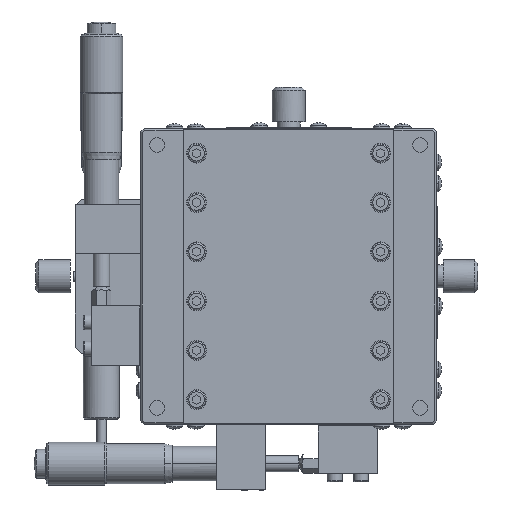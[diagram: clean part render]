
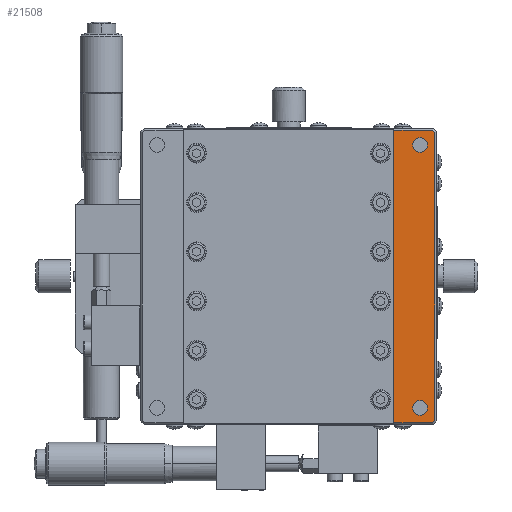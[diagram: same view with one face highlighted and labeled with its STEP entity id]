
A CAD part, front view. The second image highlights one B-rep face of the part: STEP entity #21508.
In plain terms, the highlighted planar face has unit normal (0, 1, 0).
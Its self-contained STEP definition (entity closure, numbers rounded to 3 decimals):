
#36 = CARTESIAN_POINT ( 'NONE',  ( 56.038, -16.673, 183.136 ) ) ;
#52 = EDGE_CURVE ( 'NONE', #35223, #37254, #32704, .T. ) ;
#1307 = LINE ( 'NONE', #28956, #22732 ) ;
#2003 = ORIENTED_EDGE ( 'NONE', *, *, #38731, .T. ) ;
#2301 = CARTESIAN_POINT ( 'NONE',  ( 44.245, -16.673, 94.136 ) ) ;
#3210 = ORIENTED_EDGE ( 'NONE', *, *, #15111, .F. ) ;
#3510 = LINE ( 'NONE', #17649, #36101 ) ;
#4070 = DIRECTION ( 'NONE',  ( 0., 0., 1. ) ) ;
#4244 = LINE ( 'NONE', #18417, #18880 ) ;
#4556 = DIRECTION ( 'NONE',  ( 0.707, 0., -0.707 ) ) ;
#4748 = VECTOR ( 'NONE', #4556, 1000. ) ;
#5382 = AXIS2_PLACEMENT_3D ( 'NONE', #2301, #21876, #31385 ) ;
#5523 = CARTESIAN_POINT ( 'NONE',  ( 56.745, -16.673, 94.136 ) ) ;
#6578 = ORIENTED_EDGE ( 'NONE', *, *, #12110, .T. ) ;
#7286 = FACE_BOUND ( 'NONE', #21446, .T. ) ;
#8035 = DIRECTION ( 'NONE',  ( 0., -1., 0. ) ) ;
#8647 = LINE ( 'NONE', #13529, #4748 ) ;
#9438 = EDGE_CURVE ( 'NONE', #31579, #16203, #8647, .T. ) ;
#9873 = EDGE_CURVE ( 'NONE', #12613, #31579, #4244, .T. ) ;
#11593 = AXIS2_PLACEMENT_3D ( 'NONE', #19646, #25924, #29047 ) ;
#12110 = EDGE_CURVE ( 'NONE', #23027, #31789, #14827, .T. ) ;
#12601 = EDGE_CURVE ( 'NONE', #16203, #20871, #31734, .T. ) ;
#12613 = VERTEX_POINT ( 'NONE', #15186 ) ;
#13007 = EDGE_LOOP ( 'NONE', ( #14101, #29121 ) ) ;
#13529 = CARTESIAN_POINT ( 'NONE',  ( 56.038, -16.673, 183.136 ) ) ;
#14101 = ORIENTED_EDGE ( 'NONE', *, *, #17987, .T. ) ;
#14172 = ORIENTED_EDGE ( 'NONE', *, *, #9438, .T. ) ;
#14827 = CIRCLE ( 'NONE', #32323, 2.25 ) ;
#15111 = EDGE_CURVE ( 'NONE', #30302, #20871, #1307, .T. ) ;
#15156 = CARTESIAN_POINT ( 'NONE',  ( 52.245, -16.673, 100.886 ) ) ;
#15177 = CARTESIAN_POINT ( 'NONE',  ( 44.245, -16.673, 94.136 ) ) ;
#15186 = CARTESIAN_POINT ( 'NONE',  ( 44.245, -16.673, 183.136 ) ) ;
#15540 = EDGE_CURVE ( 'NONE', #22255, #30302, #30499, .T. ) ;
#15644 = CARTESIAN_POINT ( 'NONE',  ( 52.245, -16.673, 176.386 ) ) ;
#16203 = VERTEX_POINT ( 'NONE', #36272 ) ;
#16687 = ORIENTED_EDGE ( 'NONE', *, *, #12601, .T. ) ;
#17649 = CARTESIAN_POINT ( 'NONE',  ( 44.245, -16.673, 183.436 ) ) ;
#17987 = EDGE_CURVE ( 'NONE', #37254, #35223, #26995, .T. ) ;
#18029 = DIRECTION ( 'NONE',  ( 0., 0., 1. ) ) ;
#18417 = CARTESIAN_POINT ( 'NONE',  ( -31.755, -16.673, 183.136 ) ) ;
#18880 = VECTOR ( 'NONE', #36590, 1000. ) ;
#19020 = FACE_OUTER_BOUND ( 'NONE', #38390, .T. ) ;
#19646 = CARTESIAN_POINT ( 'NONE',  ( 52.245, -16.673, 98.636 ) ) ;
#19825 = DIRECTION ( 'NONE',  ( 0.707, 0., 0.707 ) ) ;
#20778 = DIRECTION ( 'NONE',  ( 0., 0., -1. ) ) ;
#20871 = VERTEX_POINT ( 'NONE', #25499 ) ;
#20910 = PLANE ( 'NONE',  #5382 ) ;
#21011 = CARTESIAN_POINT ( 'NONE',  ( 52.245, -16.673, 178.636 ) ) ;
#21446 = EDGE_LOOP ( 'NONE', ( #2003, #6578 ) ) ;
#21508 = ADVANCED_FACE ( 'NONE', ( #19020, #32128, #7286 ), #20910, .T. ) ;
#21876 = DIRECTION ( 'NONE',  ( 0., 1., 0. ) ) ;
#22255 = VERTEX_POINT ( 'NONE', #15177 ) ;
#22309 = CIRCLE ( 'NONE', #30661, 2.25 ) ;
#22732 = VECTOR ( 'NONE', #19825, 1000. ) ;
#23027 = VERTEX_POINT ( 'NONE', #15644 ) ;
#25372 = ORIENTED_EDGE ( 'NONE', *, *, #9873, .T. ) ;
#25499 = CARTESIAN_POINT ( 'NONE',  ( 56.745, -16.673, 94.843 ) ) ;
#25924 = DIRECTION ( 'NONE',  ( 0., -1., 0. ) ) ;
#26605 = VECTOR ( 'NONE', #38778, 1000. ) ;
#26955 = CARTESIAN_POINT ( 'NONE',  ( 52.245, -16.673, 178.636 ) ) ;
#26974 = AXIS2_PLACEMENT_3D ( 'NONE', #31840, #32099, #4070 ) ;
#26995 = CIRCLE ( 'NONE', #26974, 2.25 ) ;
#28956 = CARTESIAN_POINT ( 'NONE',  ( 56.038, -16.673, 94.136 ) ) ;
#29047 = DIRECTION ( 'NONE',  ( 0., 0., 1. ) ) ;
#29121 = ORIENTED_EDGE ( 'NONE', *, *, #52, .T. ) ;
#29471 = ORIENTED_EDGE ( 'NONE', *, *, #33801, .F. ) ;
#30302 = VERTEX_POINT ( 'NONE', #39261 ) ;
#30499 = LINE ( 'NONE', #38510, #26605 ) ;
#30661 = AXIS2_PLACEMENT_3D ( 'NONE', #21011, #36614, #18029 ) ;
#31385 = DIRECTION ( 'NONE',  ( 0., 0., 1. ) ) ;
#31579 = VERTEX_POINT ( 'NONE', #36 ) ;
#31734 = LINE ( 'NONE', #5523, #32617 ) ;
#31789 = VERTEX_POINT ( 'NONE', #32498 ) ;
#31840 = CARTESIAN_POINT ( 'NONE',  ( 52.245, -16.673, 98.636 ) ) ;
#32099 = DIRECTION ( 'NONE',  ( 0., -1., 0. ) ) ;
#32128 = FACE_BOUND ( 'NONE', #13007, .T. ) ;
#32323 = AXIS2_PLACEMENT_3D ( 'NONE', #26955, #8035, #39019 ) ;
#32498 = CARTESIAN_POINT ( 'NONE',  ( 52.245, -16.673, 180.886 ) ) ;
#32617 = VECTOR ( 'NONE', #33675, 1000. ) ;
#32704 = CIRCLE ( 'NONE', #11593, 2.25 ) ;
#33245 = ORIENTED_EDGE ( 'NONE', *, *, #15540, .F. ) ;
#33675 = DIRECTION ( 'NONE',  ( 0., 0., -1. ) ) ;
#33801 = EDGE_CURVE ( 'NONE', #12613, #22255, #3510, .T. ) ;
#35223 = VERTEX_POINT ( 'NONE', #35387 ) ;
#35387 = CARTESIAN_POINT ( 'NONE',  ( 52.245, -16.673, 96.386 ) ) ;
#36101 = VECTOR ( 'NONE', #20778, 1000. ) ;
#36272 = CARTESIAN_POINT ( 'NONE',  ( 56.745, -16.673, 182.429 ) ) ;
#36590 = DIRECTION ( 'NONE',  ( 1., 0., 0. ) ) ;
#36614 = DIRECTION ( 'NONE',  ( 0., -1., 0. ) ) ;
#37254 = VERTEX_POINT ( 'NONE', #15156 ) ;
#38390 = EDGE_LOOP ( 'NONE', ( #33245, #29471, #25372, #14172, #16687, #3210 ) ) ;
#38510 = CARTESIAN_POINT ( 'NONE',  ( -31.755, -16.673, 94.136 ) ) ;
#38731 = EDGE_CURVE ( 'NONE', #31789, #23027, #22309, .T. ) ;
#38778 = DIRECTION ( 'NONE',  ( 1., 0., 0. ) ) ;
#39019 = DIRECTION ( 'NONE',  ( 0., 0., 1. ) ) ;
#39261 = CARTESIAN_POINT ( 'NONE',  ( 56.038, -16.673, 94.136 ) ) ;
